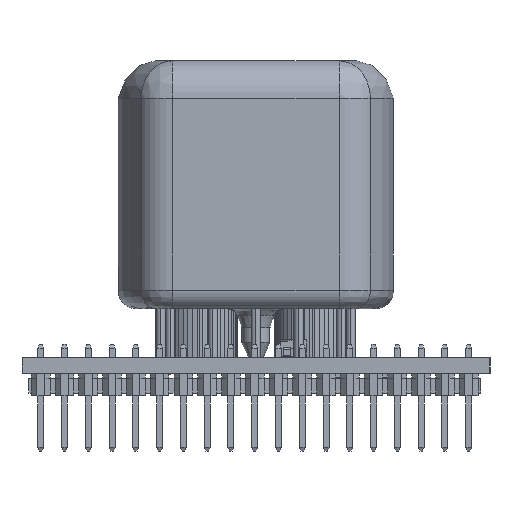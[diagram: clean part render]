
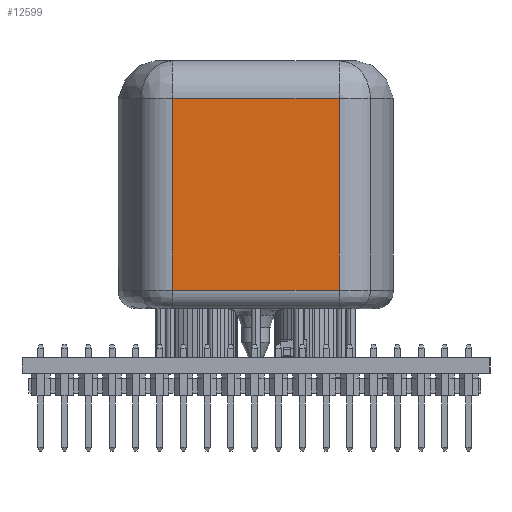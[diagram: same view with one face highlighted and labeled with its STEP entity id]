
A CAD part, left-side view. The second image highlights one B-rep face of the part: STEP entity #12599.
In plain terms, the highlighted planar face has unit normal (-1, 0, 0).
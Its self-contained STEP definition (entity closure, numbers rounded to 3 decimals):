
#12599 = ADVANCED_FACE('',(#12600),#12634,.T.);
#12600 = FACE_BOUND('',#12601,.T.);
#12601 = EDGE_LOOP('',(#12602,#12612,#12620,#12628));
#12602 = ORIENTED_EDGE('',*,*,#12603,.T.);
#12603 = EDGE_CURVE('',#12604,#12606,#12608,.T.);
#12604 = VERTEX_POINT('',#12605);
#12605 = CARTESIAN_POINT('',(9.375,33.945,
    7.2));
#12606 = VERTEX_POINT('',#12607);
#12607 = CARTESIAN_POINT('',(9.375,16.105,
    7.2));
#12608 = LINE('',#12609,#12610);
#12609 = CARTESIAN_POINT('',(9.375,14.182,7.2
    ));
#12610 = VECTOR('',#12611,1.);
#12611 = DIRECTION('',(0.,-1.,0.));
#12612 = ORIENTED_EDGE('',*,*,#12613,.T.);
#12613 = EDGE_CURVE('',#12606,#12614,#12616,.T.);
#12614 = VERTEX_POINT('',#12615);
#12615 = CARTESIAN_POINT('',(9.375,16.105,
    27.7));
#12616 = LINE('',#12617,#12618);
#12617 = CARTESIAN_POINT('',(9.375,16.105,
    5.2));
#12618 = VECTOR('',#12619,1.);
#12619 = DIRECTION('',(0.,0.,1.));
#12620 = ORIENTED_EDGE('',*,*,#12621,.T.);
#12621 = EDGE_CURVE('',#12614,#12622,#12624,.T.);
#12622 = VERTEX_POINT('',#12623);
#12623 = CARTESIAN_POINT('',(9.375,33.945,
    27.7));
#12624 = LINE('',#12625,#12626);
#12625 = CARTESIAN_POINT('',(9.375,14.182,
    27.7));
#12626 = VECTOR('',#12627,1.);
#12627 = DIRECTION('',(0.,1.,0.));
#12628 = ORIENTED_EDGE('',*,*,#12629,.T.);
#12629 = EDGE_CURVE('',#12622,#12604,#12630,.T.);
#12630 = LINE('',#12631,#12632);
#12631 = CARTESIAN_POINT('',(9.375,33.945,
    5.2));
#12632 = VECTOR('',#12633,1.);
#12633 = DIRECTION('',(0.,0.,-1.));
#12634 = PLANE('',#12635);
#12635 = AXIS2_PLACEMENT_3D('',#12636,#12637,#12638);
#12636 = CARTESIAN_POINT('',(9.375,14.182,5.2
    ));
#12637 = DIRECTION('',(-1.,0.,0.));
#12638 = DIRECTION('',(0.,0.,1.));
